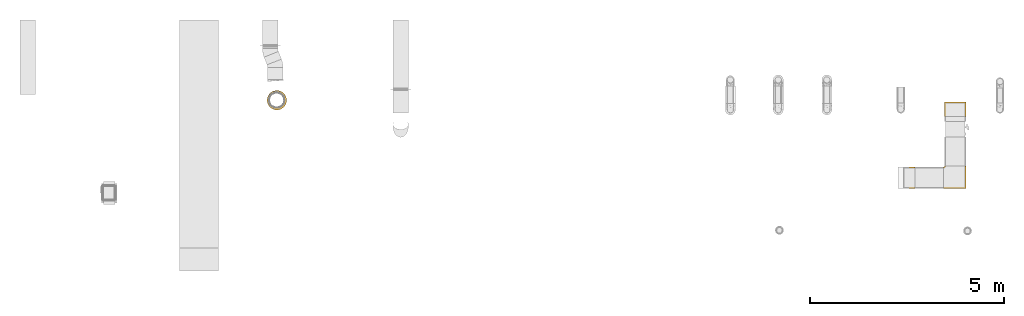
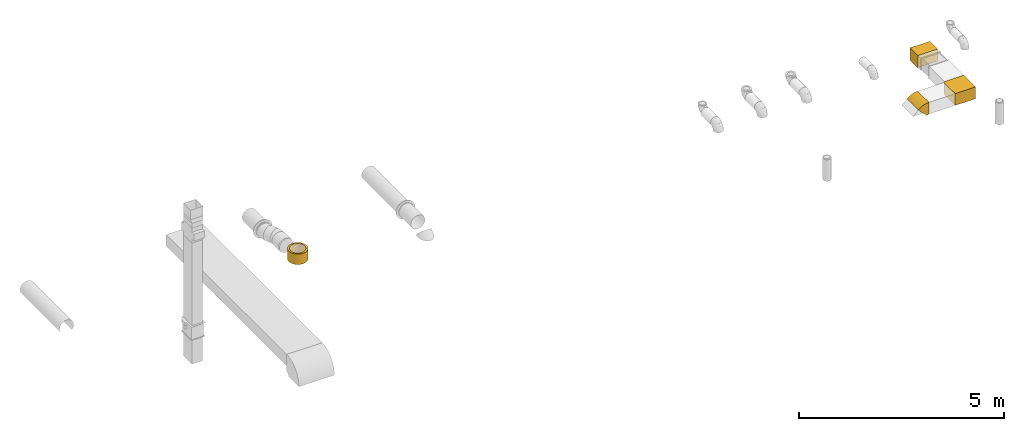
# One storey, part 5 of 14: 4 coverings.
"""IFC2X3 building model written with IfcOpenShell, lengths in millimetres."""

import ifcopenshell
import ifcopenshell.guid

model = None  # the IFC model being written
_history = None  # IfcOwnerHistory: only IFC2X3 demands one
_inside = {}  # id of a spatial element -> (the spatial element, [elements in it])
_under = {}  # id of a project, library or spatial element -> (it, [spatial elements below it])
_declared = {}  # id of a project -> (the project, [libraries it declares])
_typed = {}  # id of a type object -> (the type object, [elements of that type])
_made_of = {}  # id of a material, layer set ... -> (it, [elements and type objects made of it])


def new_model(schema):
    """Start an empty IFC model of exactly this schema.

    Asked for "IFC4X3", IfcOpenShell would pick the latest addendum, in which some entities
    have other attributes; the version numbers below select the first issue.
    IFC2X3 requires an IfcOwnerHistory on every rooted entity: one is made here for all.
    """
    global model, _history
    if schema == "IFC4X3":
        model = ifcopenshell.file(schema_version=(4, 3, 0, 0))
    else:
        model = ifcopenshell.file(schema=schema)
    _inside.clear()
    _under.clear()
    _declared.clear()
    _typed.clear()
    _made_of.clear()
    _history = None
    if model.schema == "IFC2X3":
        org = make("IfcOrganization", Name="unknown")
        user = make(
            "IfcPersonAndOrganization",
            ThePerson=make("IfcPerson", FamilyName="unknown"),
            TheOrganization=org,
        )
        app = make(
            "IfcApplication",
            ApplicationDeveloper=org,
            Version="unknown",
            ApplicationFullName="unknown",
            ApplicationIdentifier="unknown",
        )
        _history = make(
            "IfcOwnerHistory",
            OwningUser=user,
            OwningApplication=app,
            ChangeAction="ADDED",
            CreationDate=0,
        )
    return model


def make(cls, **values):
    """One entity of the class cls with the attributes given. An attribute that is None is left unset."""
    return model.create_entity(
        cls, **{name: value for name, value in values.items() if value is not None}
    )


def entity(cls, *values):
    """Any entity or typed value of the class cls, its attributes in the order of the schema. None: left unset."""
    e = model.create_entity(cls)
    for i, value in enumerate(values):
        if value is not None:
            e[i] = value
    return e


def rooted(cls, **values):
    """An entity with a GlobalId (a new one), such as an element, a storey or a relation."""
    return make(cls, GlobalId=ifcopenshell.guid.new(), OwnerHistory=_history, **values)


def si_unit(unit_type, name, prefix=None):
    """IfcSIUnit, for example si_unit("LENGTHUNIT", "METRE", prefix="MILLI")."""
    return make("IfcSIUnit", UnitType=unit_type, Prefix=prefix, Name=name)


def converted_unit(unit_type, name, factor, base, dimensions=None, offset=None):
    """IfcConversionBasedUnit, such as the inch: factor (a typed value) times the base unit."""
    return make(
        "IfcConversionBasedUnit"
        if offset is None
        else "IfcConversionBasedUnitWithOffset",
        ConversionOffset=offset,
        Dimensions=None
        if dimensions is None
        else entity("IfcDimensionalExponents", *dimensions),
        UnitType=unit_type,
        Name=name,
        ConversionFactor=make(
            "IfcMeasureWithUnit", ValueComponent=factor, UnitComponent=base
        ),
    )


def derived_unit(unit_type, elements):
    """IfcDerivedUnit: a product of units, each with its exponent."""
    return make(
        "IfcDerivedUnit",
        Elements=[
            make("IfcDerivedUnitElement", Unit=unit, Exponent=power)
            for unit, power in elements
        ],
        UnitType=unit_type,
    )


def assignment(units):
    """IfcUnitAssignment: the units of a project."""
    return None if units is None else make("IfcUnitAssignment", Units=units)


def point(xyz):
    """IfcCartesianPoint."""
    return None if xyz is None else make("IfcCartesianPoint", Coordinates=xyz)


def direction(xyz):
    """IfcDirection."""
    return None if xyz is None else make("IfcDirection", DirectionRatios=xyz)


def frame(location, z_axis=None, x_axis=None):
    """IfcAxis2Placement3D, a coordinate frame: its origin and axes. An axis left out is left unset."""
    return make(
        "IfcAxis2Placement3D",
        Location=point(location),
        Axis=direction(z_axis),
        RefDirection=direction(x_axis),
    )


def origin_with_axes():
    """The frame at (0, 0, 0) with the z axis (0, 0, 1) and the x axis (1, 0, 0) written out."""
    return frame((0.0, 0.0, 0.0), z_axis=(0.0, 0.0, 1.0), x_axis=(1.0, 0.0, 0.0))


def place(relative_to, where):
    """IfcLocalPlacement: puts the frame where relative to a parent placement (None: the world)."""
    return make(
        "IfcLocalPlacement", PlacementRelTo=relative_to, RelativePlacement=where
    )


def context(
    kind, dimensions, precision=None, world=None, true_north=None, identifier=None
):
    """IfcGeometricRepresentationContext, for example the 3D "Model" context."""
    return make(
        "IfcGeometricRepresentationContext",
        ContextIdentifier=identifier,
        ContextType=kind,
        CoordinateSpaceDimension=dimensions,
        Precision=precision,
        WorldCoordinateSystem=world,
        TrueNorth=true_north,
    )


def subcontext(parent, identifier, kind, view, scale=None):
    """IfcGeometricRepresentationSubContext, for example "Body" below "Model"."""
    return make(
        "IfcGeometricRepresentationSubContext",
        ContextIdentifier=identifier,
        ContextType=kind,
        ParentContext=parent,
        TargetScale=scale,
        TargetView=view,
    )


def project(units=None, contexts=None):
    """IfcProject with its units and contexts."""
    return rooted(
        "IfcProject",
        Name="project",
        RepresentationContexts=contexts,
        UnitsInContext=assignment(units),
    )


def spatial(cls, under=None, at=None, **own):
    """A site, building, storey or space (cls), placed at a placement, below another one or the project."""
    s = rooted(cls, ObjectPlacement=at, **own)
    if under is not None:
        _under.setdefault(under.id(), (under, []))[1].append(s)
    return s


def faces_of(points, faces, orient=None, outer=None):
    """IfcFace entities. A face is a list of loops; a loop is a list of indices into points, from 0.

    orient and outer hold one flag for each loop. By default every Orientation is true, the
    first loop of a face is its IfcFaceOuterBound and the others are IfcFaceBound.
    """
    made = []
    for i, loops in enumerate(faces):
        bounds = []
        for j, loop in enumerate(loops):
            is_outer = j == 0 if outer is None else outer[i][j]
            bounds.append(
                make(
                    "IfcFaceOuterBound" if is_outer else "IfcFaceBound",
                    Bound=make("IfcPolyLoop", Polygon=[points[k] for k in loop]),
                    Orientation=True if orient is None else orient[i][j],
                )
            )
        made.append(make("IfcFace", Bounds=bounds))
    return made


def open_shell(faces, orient=None, outer=None):
    """The faces of one IfcOpenShell. surface_model builds it on its shared points."""
    return ("IfcOpenShell", faces, orient, outer)


def faceted_brep(points, faces, orient=None, outer=None, voids=None):
    """IfcFacetedBrep: a solid bounded by flat faces; with voids (closed shells), ...WithVoids."""
    shared = [point(p) for p in points]
    hull = make("IfcClosedShell", CfsFaces=faces_of(shared, faces, orient, outer))
    if voids is None:
        return make("IfcFacetedBrep", Outer=hull)
    return make(
        "IfcFacetedBrepWithVoids",
        Outer=hull,
        Voids=[
            make(cls, CfsFaces=faces_of(shared, fs, o, b)) for cls, fs, o, b in voids
        ],
    )


def surface_model(cls, points, shells):
    """IfcFaceBasedSurfaceModel or IfcShellBasedSurfaceModel (cls): surfaces that need not close."""
    shared = [point(p) for p in points]
    made = [make(c, CfsFaces=faces_of(shared, fs, o, b)) for c, fs, o, b in shells]
    if cls == "IfcFaceBasedSurfaceModel":
        return make(cls, FbsmFaces=made)
    return make(cls, SbsmBoundary=made)


def shape(context_of_items, identifier, shape_type, items):
    """IfcShapeRepresentation: the items that make up one representation, for example the "Body"."""
    return make(
        "IfcShapeRepresentation",
        ContextOfItems=context_of_items,
        RepresentationIdentifier=identifier,
        RepresentationType=shape_type,
        Items=items,
    )


def source(mapping_origin, context_of_items, identifier, shape_type, items):
    """IfcRepresentationMap: a shape defined once, which mapped items show again and again."""
    return make(
        "IfcRepresentationMap",
        MappingOrigin=mapping_origin,
        MappedRepresentation=shape(context_of_items, identifier, shape_type, items),
    )


def transform(
    local_origin,
    x_axis=None,
    y_axis=None,
    z_axis=None,
    scale=None,
    scale2=None,
    scale3=None,
    uniform=True,
):
    """IfcCartesianTransformationOperator3D, or its non-uniform kind. x_axis, y_axis, z_axis: its Axis1, 2, 3."""
    if uniform:
        return make(
            "IfcCartesianTransformationOperator3D",
            Axis1=direction(x_axis),
            Axis2=direction(y_axis),
            LocalOrigin=point(local_origin),
            Scale=scale,
            Axis3=direction(z_axis),
        )
    return make(
        "IfcCartesianTransformationOperator3DnonUniform",
        Axis1=direction(x_axis),
        Axis2=direction(y_axis),
        LocalOrigin=point(local_origin),
        Scale=scale,
        Axis3=direction(z_axis),
        Scale2=scale2,
        Scale3=scale3,
    )


def mapped(mapping_source, mapping_target):
    """IfcMappedItem: shows the shape of a source again, moved by a transform."""
    return make(
        "IfcMappedItem", MappingSource=mapping_source, MappingTarget=mapping_target
    )


def made_of(thing, what):
    """Note that an element or type object is made of a material, layer set ...; save() writes the relation."""
    if what is not None:
        _made_of.setdefault(what.id(), (what, []))[1].append(thing)
    return thing


def element(
    cls,
    number,
    at=None,
    inside=None,
    cuts=None,
    type_object=None,
    material=None,
    context=None,
    identifier="Body",
    shape_type=None,
    held_by="IfcProductDefinitionShape",
    body=None,
    shapes=None,
    **own,
):
    """One element of the class cls, such as IfcWall. Its Tag is "e" and its number.

    at: its placement. inside: the storey or other place that contains it. cuts: it is an
    opening in that element (IfcRelVoidsElement). A single representation is given by context,
    identifier, shape_type and body (its items); several are given by shapes. held_by: the class
    of the entity that holds the representations. save() writes the other relations.
    """
    e = rooted(cls, Tag="e%d" % number, ObjectPlacement=at, **own)
    if body is not None:
        shapes = [shape(context, identifier, shape_type, body)]
    if shapes is not None:
        e.Representation = make(held_by, Representations=shapes)
    if inside is not None:
        _inside.setdefault(inside.id(), (inside, []))[1].append(e)
    if cuts is not None:
        rooted(
            "IfcRelVoidsElement", RelatingBuildingElement=cuts, RelatedOpeningElement=e
        )
    if type_object is not None:
        _typed.setdefault(type_object.id(), (type_object, []))[1].append(e)
    return made_of(e, material)


def aggregate(whole, parts):
    """IfcRelAggregates: a whole, such as a stair, and the parts it consists of."""
    return rooted("IfcRelAggregates", RelatingObject=whole, RelatedObjects=parts)


def save(model, path):
    """Write the relations noted so far, then the file.

    IfcRelAggregates (storeys below a building ...), IfcRelContainedInSpatialStructure (elements
    in a storey), IfcRelDefinesByType, IfcRelAssociatesMaterial and IfcRelDeclares: one each for
    every whole, place, type object, material and project.
    """
    for whole, parts in _under.values():
        aggregate(whole, parts)
    for where, things in _inside.values():
        rooted(
            "IfcRelContainedInSpatialStructure",
            RelatedElements=things,
            RelatingStructure=where,
        )
    for kind, things in _typed.values():
        rooted("IfcRelDefinesByType", RelatedObjects=things, RelatingType=kind)
    for what, things in _made_of.values():
        rooted("IfcRelAssociatesMaterial", RelatedObjects=things, RelatingMaterial=what)
    for by, libraries in _declared.values():
        rooted("IfcRelDeclares", RelatingContext=by, RelatedDefinitions=libraries)
    model.write(path)


model = new_model("IFC2X3")

# Units and contexts
model_context = context("Model", 3, precision=0.01, world=frame((0.0, 4.29681676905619e-09, 0.0)), true_north=direction((4.01073788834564e-13, 1.0)))
plan_context = context("Plan", 3, precision=0.01, world=frame((0.0, 4.29681676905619e-09, 0.0)), true_north=direction((4.01073788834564e-13, 1.0)))
body_context = subcontext(model_context, "Body", "Model", "MODEL_VIEW")
ifc_project = project(units=[converted_unit("PLANEANGLEUNIT", "DEGREE", entity("IfcPositiveLengthMeasure", 0.0174532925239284), si_unit("PLANEANGLEUNIT", "RADIAN"), dimensions=[0, 0, 0, 0, 0, 0, 0]), si_unit("AREAUNIT", "SQUARE_METRE"), si_unit("LENGTHUNIT", "METRE", prefix="MILLI"), si_unit("MASSUNIT", "GRAM", prefix="KILO"), si_unit("POWERUNIT", "WATT"), si_unit("PRESSUREUNIT", "PASCAL", prefix="KILO"), si_unit("FORCEUNIT", "NEWTON", prefix="KILO"), si_unit("ELECTRICVOLTAGEUNIT", "VOLT"), si_unit("ELECTRICCURRENTUNIT", "AMPERE"), si_unit("THERMODYNAMICTEMPERATUREUNIT", "DEGREE_CELSIUS"), si_unit("TIMEUNIT", "SECOND"), si_unit("VOLUMEUNIT", "CUBIC_METRE"), derived_unit("LINEARVELOCITYUNIT", [(si_unit("LENGTHUNIT", "METRE"), 1), (si_unit("TIMEUNIT", "SECOND"), -1)]), derived_unit("VOLUMETRICFLOWRATEUNIT", [(si_unit("VOLUMEUNIT", "CUBIC_METRE"), 1), (si_unit("TIMEUNIT", "SECOND"), -1)]), derived_unit("THERMALTRANSMITTANCEUNIT", [(si_unit("POWERUNIT", "WATT"), 1), (si_unit("THERMODYNAMICTEMPERATUREUNIT", "KELVIN"), -1), (si_unit("AREAUNIT", "SQUARE_METRE"), -1)]), derived_unit("SOUNDPRESSUREUNIT", [(si_unit("PRESSUREUNIT", "PASCAL"), 1)])], contexts=[model_context, plan_context])

# Site, building, storey
site_placement = place(None, frame((0.0, -4.29681676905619e-09, 0.0), z_axis=(0.0, 0.0, 1.0), x_axis=(1.0, 0.0, 0.0)))
site = spatial("IfcSite", under=ifc_project, at=site_placement, CompositionType="ELEMENT")
building_placement = place(site_placement, frame((0.0, 4.29681676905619e-09, 0.0), z_axis=(0.0, 0.0, 1.0), x_axis=(1.0, 0.0, 0.0)))
building = spatial("IfcBuilding", under=site, at=building_placement, Name="mc-building", CompositionType="ELEMENT")
storey_placement = place(building_placement, frame((0.0, 0.0, 205200.0), z_axis=(0.0, 0.0, 1.0), x_axis=(1.0, 0.0, 0.0)))
storey = spatial("IfcBuildingStorey", under=building, at=storey_placement, Name="Nivå D + 1,2 m", CompositionType="ELEMENT", Elevation=205200.0)

# Coverings
shared_shape_1 = source(origin_with_axes(), body_context, "Body", "SurfaceModel", [
    surface_model("IfcShellBasedSurfaceModel", [(275.0, 301.5, 175.0), (-275.04504, 301.5, 175.0), (-275.41073, 295.48696, 175.0), (275.0, -275.0, 175.0), (-280.32124, 284.58096, 175.0), (-277.20417, 289.73597, 175.0), (-284.58096, 280.32124, 175.0), (-289.73597, 277.20417, 175.0), (-301.5, -275.0, 175.0), (-295.48696, 275.41073, 175.0), (-301.5, 275.04504, 175.0), (-289.73597, 277.20417, -175.0), (-284.58096, 280.32124, -175.0), (-301.5, -275.0, -175.0), (-301.5, 275.04504, -175.0), (-295.48696, 275.41073, -175.0), (275.0, -275.0, -175.0), (-275.41073, 295.48696, -175.0), (-275.04504, 301.5, -175.0), (275.0, 301.5, -175.0), (-277.20417, 289.73597, -175.0), (-280.32124, 284.58096, -175.0)], [open_shell([[[0, 1, 2]], [[3, 0, 4]], [[5, 0, 2]], [[4, 0, 5]], [[6, 7, 8]], [[6, 8, 3]], [[9, 10, 8]], [[9, 8, 7]], [[6, 3, 4]], [[11, 12, 13]], [[13, 14, 15]], [[13, 15, 11]], [[12, 16, 13]], [[17, 18, 19]], [[17, 19, 20]], [[20, 19, 21]], [[21, 19, 16]], [[21, 16, 12]], [[1, 0, 19]], [[19, 18, 1]], [[2, 1, 17]], [[5, 2, 20]], [[4, 5, 21]], [[17, 1, 18]], [[20, 2, 17]], [[20, 21, 5]], [[21, 12, 4]], [[7, 6, 11]], [[9, 7, 15]], [[10, 9, 14]], [[11, 6, 12]], [[15, 7, 11]], [[15, 14, 9]], [[4, 12, 6]], [[8, 10, 14]], [[14, 13, 8]], [[3, 8, 16]], [[13, 16, 8]], [[0, 3, 19]], [[16, 19, 3]]])]),
])
covering_1_placement = place(storey_placement, frame((347143.0, 463433.0, 4092.5), z_axis=(0.0, 0.0, 1.0), x_axis=(1.0, 0.0, 0.0)))
element("IfcCovering", 1, at=covering_1_placement, inside=storey, Name="T=25mm", PredefinedType="INSULATION", context=body_context, shape_type="MappedRepresentation", body=[
    mapped(shared_shape_1, transform((0.0, 0.0, 0.0), scale=1.0)),
])
shared_shape_2 = source(origin_with_axes(), body_context, "Body", "SurfaceModel", [
    surface_model("IfcShellBasedSurfaceModel", [(-66.05339, 185.0481, 275.0), (89.39257, -128.67777, 275.0), (146.25534, -93.83223, 275.0), (27.77883, -154.19902, 275.0), (-84.14197, 177.55557, 275.0), (-37.06874, -169.76754, 275.0), (196.96699, -50.52038, 275.0), (-50.52038, 196.96699, 275.0), (-103.55339, 175.0, 275.0), (-103.55339, -175.0, 275.0), (89.39257, -128.67777, -275.0), (-84.14197, 177.55557, -275.0), (-66.05339, 185.0481, -275.0), (-37.06874, -169.76754, -275.0), (-103.55339, -175.0, -275.0), (-103.55339, 175.0, -275.0), (-50.52038, 196.96699, -275.0), (146.25534, -93.83223, -275.0), (27.77883, -154.19902, -275.0), (196.96699, -50.52038, -275.0)], [open_shell([[[0, 1, 2]], [[3, 4, 5]], [[1, 4, 3]], [[2, 6, 7]], [[4, 1, 0]], [[8, 9, 5]], [[5, 4, 8]], [[0, 2, 7]], [[10, 11, 12]], [[13, 14, 15]], [[11, 13, 15]], [[12, 16, 17]], [[10, 12, 17]], [[11, 18, 13]], [[11, 10, 18]], [[17, 16, 19]], [[12, 0, 7]], [[7, 16, 12]], [[12, 11, 0]], [[15, 8, 4]], [[4, 11, 15]], [[0, 11, 4]], [[9, 8, 15]], [[15, 14, 9]], [[5, 14, 13]], [[3, 13, 18]], [[14, 5, 9]], [[5, 13, 3]], [[18, 1, 3]], [[2, 10, 17]], [[6, 17, 19]], [[10, 2, 1]], [[2, 17, 6]], [[10, 1, 18]], [[7, 6, 19]], [[19, 16, 7]]])]),
])
covering_2_placement = place(storey_placement, frame((345997.62386, 463433.0, 4092.5), z_axis=(0.0, 1.0, 0.0), x_axis=(0.707106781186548, 0.0, 0.707106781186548)))
element("IfcCovering", 2, at=covering_2_placement, inside=storey, Name="T=25mm", PredefinedType="INSULATION", context=body_context, shape_type="MappedRepresentation", body=[
    mapped(shared_shape_2, transform((0.0, 0.0, 0.0), scale=1.0)),
])
shared_shape_3 = source(origin_with_axes(), body_context, "Body", "SurfaceModel", [
    surface_model("IfcShellBasedSurfaceModel", [(180.0, 201.5, 280.0), (-180.05632, 201.5, 280.0), (-180.29094, 196.60103, 280.0), (180.0, -180.0, 280.0), (-184.23054, 187.69861, 280.0), (-181.7108, 191.90645, 280.0), (-187.69861, 184.23054, 280.0), (-191.90645, 181.7108, 280.0), (-201.5, -180.0, 280.0), (-196.60103, 180.29094, 280.0), (-201.5, 180.05632, 280.0), (-191.90645, 181.7108, -280.0), (-187.69861, 184.23054, -280.0), (-201.5, -180.0, -280.0), (-201.5, 180.05632, -280.0), (-196.60103, 180.29094, -280.0), (180.0, -180.0, -280.0), (-180.29094, 196.60103, -280.0), (-180.05632, 201.5, -280.0), (180.0, 201.5, -280.0), (-181.7108, 191.90645, -280.0), (-184.23054, 187.69861, -280.0)], [open_shell([[[0, 1, 2]], [[3, 0, 4]], [[5, 0, 2]], [[4, 0, 5]], [[6, 7, 8]], [[6, 8, 3]], [[9, 10, 8]], [[9, 8, 7]], [[6, 3, 4]], [[11, 12, 13]], [[13, 14, 15]], [[13, 15, 11]], [[12, 16, 13]], [[17, 18, 19]], [[17, 19, 20]], [[20, 19, 21]], [[21, 19, 16]], [[21, 16, 12]], [[1, 0, 19]], [[19, 18, 1]], [[2, 1, 17]], [[5, 2, 20]], [[4, 5, 21]], [[17, 1, 18]], [[20, 2, 17]], [[20, 21, 5]], [[21, 12, 4]], [[7, 6, 11]], [[9, 7, 15]], [[10, 9, 14]], [[11, 6, 12]], [[15, 7, 11]], [[15, 14, 9]], [[4, 12, 6]], [[8, 10, 14]], [[14, 13, 8]], [[3, 8, 13]], [[13, 16, 3]], [[0, 3, 19]], [[16, 19, 3]]])]),
])
covering_3_placement = place(storey_placement, frame((347143.0, 465211.0, 4092.5), z_axis=(-1.0, 0.0, 0.0), x_axis=(0.0, 1.0, 0.0)))
element("IfcCovering", 3, at=covering_3_placement, inside=storey, Name="B-EI60", PredefinedType="INSULATION", context=body_context, shape_type="MappedRepresentation", body=[
    mapped(shared_shape_3, transform((0.0, 0.0, 0.0), scale=1.0)),
])
covering_4_placement = place(storey_placement, frame((329638.925, 465430.5, 3365.0), z_axis=(0.0, -1.0, 0.0), x_axis=(0.0, 0.0, 1.0)))
element("IfcCovering", 4, at=covering_4_placement, inside=storey, Name="B-EI60", PredefinedType="INSULATION", context=body_context, shape_type="Brep", body=[
    faceted_brep([(635.0, 196.961550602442, -34.7296355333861), (635.0, 200.0, 0.0), (942.6, 200.0, 0.0), (942.6, 196.961550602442, -34.7296355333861), (635.0, 187.938524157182, -68.4040286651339), (942.6, 187.938524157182, -68.4040286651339), (635.0, 173.205080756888, -100.0), (942.6, 173.205080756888, -100.0), (635.0, 153.208888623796, -128.557521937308), (942.6, 153.208888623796, -128.557521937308), (635.0, 128.557521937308, -153.208888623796), (942.6, 128.557521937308, -153.208888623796), (635.0, 100.0, -173.205080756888), (942.6, 100.0, -173.205080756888), (635.0, 68.4040286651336, -187.938524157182), (942.6, 68.4040286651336, -187.938524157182), (635.0, 34.729635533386, -196.961550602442), (942.6, 34.729635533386, -196.961550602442), (635.0, -3.67394039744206e-14, -200.0), (942.6, -3.67394039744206e-14, -200.0), (635.0, -34.7296355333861, -196.961550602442), (942.6, -34.7296355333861, -196.961550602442), (635.0, -68.4040286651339, -187.938524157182), (942.6, -68.4040286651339, -187.938524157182), (635.0, -100.0, -173.205080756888), (942.6, -100.0, -173.205080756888), (635.0, -128.557521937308, -153.208888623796), (942.6, -128.557521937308, -153.208888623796), (635.0, -153.208888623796, -128.557521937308), (942.6, -153.208888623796, -128.557521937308), (635.0, -173.205080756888, -99.9999999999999), (942.6, -173.205080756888, -99.9999999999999), (635.0, -187.938524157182, -68.4040286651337), (942.6, -187.938524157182, -68.4040286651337), (635.0, -196.961550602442, -34.729635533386), (942.6, -196.961550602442, -34.729635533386), (635.0, -200.0, 2.44929359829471e-14), (942.6, -200.0, 2.44929359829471e-14), (635.0, -196.961550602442, 34.7296355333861), (942.6, -196.961550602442, 34.7296355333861), (635.0, -187.938524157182, 68.4040286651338), (942.6, -187.938524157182, 68.4040286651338), (635.0, -173.205080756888, 100.0), (942.6, -173.205080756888, 100.0), (635.0, -153.208888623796, 128.557521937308), (942.6, -153.208888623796, 128.557521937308), (635.0, -128.557521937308, 153.208888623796), (942.6, -128.557521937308, 153.208888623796), (635.0, -99.9999999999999, 173.205080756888), (942.6, -100.0, 173.205080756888), (635.0, -68.4040286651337, 187.938524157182), (942.6, -68.4040286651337, 187.938524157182), (635.0, -34.7296355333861, 196.961550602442), (942.6, -34.7296355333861, 196.961550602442), (635.0, 1.22464679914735e-14, 200.0), (942.6, 1.22464679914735e-14, 200.0), (635.0, 34.7296355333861, 196.961550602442), (942.6, 34.7296355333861, 196.961550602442), (635.0, 68.4040286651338, 187.938524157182), (942.6, 68.4040286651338, 187.938524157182), (635.0, 100.0, 173.205080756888), (942.6, 100.0, 173.205080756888), (635.0, 128.557521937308, 153.208888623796), (942.6, 128.557521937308, 153.208888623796), (635.0, 153.208888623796, 128.557521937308), (942.6, 153.208888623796, 128.557521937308), (635.0, 173.205080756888, 100.0), (942.6, 173.205080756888, 100.0), (635.0, 187.938524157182, 68.4040286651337), (942.6, 187.938524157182, 68.4040286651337), (635.0, 196.961550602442, 34.7296355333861), (942.6, 196.961550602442, 34.7296355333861), (635.0, 250.0, 0.0), (635.0, 246.201938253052, -43.4120444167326), (942.6, 246.201938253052, -43.4120444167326), (942.6, 250.0, 0.0), (635.0, 246.201938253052, 43.4120444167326), (942.6, 246.201938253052, 43.4120444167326), (635.0, 234.923155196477, 85.5050358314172), (942.6, 234.923155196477, 85.5050358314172), (635.0, 216.50635094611, 125.0), (942.6, 216.50635094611, 125.0), (635.0, 191.511110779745, 160.696902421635), (942.6, 191.511110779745, 160.696902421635), (635.0, 160.696902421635, 191.511110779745), (942.6, 160.696902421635, 191.511110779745), (635.0, 125.0, 216.50635094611), (942.6, 125.0, 216.50635094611), (635.0, 85.5050358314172, 234.923155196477), (942.6, 85.5050358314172, 234.923155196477), (635.0, 43.4120444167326, 246.201938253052), (942.6, 43.4120444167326, 246.201938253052), (635.0, 1.53080849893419e-14, 250.0), (942.6, 1.53080849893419e-14, 250.0), (635.0, -43.4120444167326, 246.201938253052), (942.6, -43.4120444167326, 246.201938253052), (635.0, -85.5050358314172, 234.923155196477), (942.6, -85.5050358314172, 234.923155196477), (635.0, -125.0, 216.50635094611), (942.6, -125.0, 216.50635094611), (635.0, -160.696902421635, 191.511110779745), (942.6, -160.696902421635, 191.511110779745), (635.0, -191.511110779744, 160.696902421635), (942.6, -191.511110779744, 160.696902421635), (635.0, -216.50635094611, 125.0), (942.6, -216.50635094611, 125.0), (635.0, -234.923155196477, 85.5050358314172), (942.6, -234.923155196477, 85.5050358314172), (635.0, -246.201938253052, 43.4120444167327), (942.6, -246.201938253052, 43.4120444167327), (635.0, -250.0, 3.06161699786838e-14), (942.6, -250.0, 3.06161699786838e-14), (635.0, -246.201938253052, -43.4120444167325), (942.6, -246.201938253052, -43.4120444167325), (635.0, -234.923155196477, -85.5050358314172), (942.6, -234.923155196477, -85.5050358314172), (635.0, -216.50635094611, -125.0), (942.6, -216.50635094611, -125.0), (635.0, -191.511110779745, -160.696902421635), (942.6, -191.511110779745, -160.696902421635), (635.0, -160.696902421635, -191.511110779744), (942.6, -160.696902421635, -191.511110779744), (635.0, -125.0, -216.50635094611), (942.6, -125.0, -216.50635094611), (635.0, -85.5050358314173, -234.923155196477), (942.6, -85.5050358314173, -234.923155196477), (635.0, -43.4120444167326, -246.201938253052), (942.6, -43.4120444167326, -246.201938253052), (635.0, -4.59242549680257e-14, -250.0), (942.6, -4.59242549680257e-14, -250.0), (635.0, 43.4120444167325, -246.201938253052), (942.6, 43.4120444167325, -246.201938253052), (635.0, 85.505035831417, -234.923155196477), (942.6, 85.505035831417, -234.923155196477), (635.0, 125.0, -216.50635094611), (942.6, 125.0, -216.50635094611), (635.0, 160.696902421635, -191.511110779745), (942.6, 160.696902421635, -191.511110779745), (635.0, 191.511110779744, -160.696902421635), (942.6, 191.511110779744, -160.696902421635), (635.0, 216.50635094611, -125.0), (942.6, 216.50635094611, -125.0), (635.0, 234.923155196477, -85.5050358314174), (942.6, 234.923155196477, -85.5050358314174)], [[[0, 1, 2, 3]], [[4, 0, 3, 5]], [[6, 4, 5, 7]], [[8, 6, 7, 9]], [[10, 8, 9, 11]], [[12, 10, 11, 13]], [[14, 12, 13, 15]], [[16, 14, 15, 17]], [[18, 16, 17, 19]], [[20, 18, 19, 21]], [[22, 20, 21, 23]], [[24, 22, 23, 25]], [[26, 24, 25, 27]], [[28, 26, 27, 29]], [[30, 28, 29, 31]], [[32, 30, 31, 33]], [[34, 32, 33, 35]], [[36, 34, 35, 37]], [[38, 36, 37, 39]], [[40, 38, 39, 41]], [[42, 40, 41, 43]], [[44, 42, 43, 45]], [[46, 44, 45, 47]], [[48, 46, 47, 49]], [[50, 48, 49, 51]], [[52, 50, 51, 53]], [[54, 52, 53, 55]], [[56, 54, 55, 57]], [[58, 56, 57, 59]], [[60, 58, 59, 61]], [[62, 60, 61, 63]], [[64, 62, 63, 65]], [[66, 64, 65, 67]], [[68, 66, 67, 69]], [[70, 68, 69, 71]], [[1, 70, 71, 2]], [[72, 73, 74, 75]], [[76, 72, 75, 77]], [[78, 76, 77, 79]], [[80, 78, 79, 81]], [[82, 80, 81, 83]], [[84, 82, 83, 85]], [[86, 84, 85, 87]], [[88, 86, 87, 89]], [[90, 88, 89, 91]], [[92, 90, 91, 93]], [[94, 92, 93, 95]], [[96, 94, 95, 97]], [[98, 96, 97, 99]], [[100, 98, 99, 101]], [[102, 100, 101, 103]], [[104, 102, 103, 105]], [[106, 104, 105, 107]], [[108, 106, 107, 109]], [[110, 108, 109, 111]], [[112, 110, 111, 113]], [[114, 112, 113, 115]], [[116, 114, 115, 117]], [[118, 116, 117, 119]], [[120, 118, 119, 121]], [[122, 120, 121, 123]], [[124, 122, 123, 125]], [[126, 124, 125, 127]], [[128, 126, 127, 129]], [[130, 128, 129, 131]], [[132, 130, 131, 133]], [[134, 132, 133, 135]], [[136, 134, 135, 137]], [[138, 136, 137, 139]], [[140, 138, 139, 141]], [[142, 140, 141, 143]], [[73, 142, 143, 74]], [[75, 74, 143, 141, 139, 137, 135, 133, 131, 129, 127, 125, 123, 121, 119, 117, 115, 113, 111, 109, 107, 105, 103, 101, 99, 97, 95, 93, 91, 89, 87, 85, 83, 81, 79, 77], [2, 71, 69, 67, 65, 63, 61, 59, 57, 55, 53, 51, 49, 47, 45, 43, 41, 39, 37, 35, 33, 31, 29, 27, 25, 23, 21, 19, 17, 15, 13, 11, 9, 7, 5, 3]], [[76, 78, 80, 82, 84, 86, 88, 90, 92, 94, 96, 98, 100, 102, 104, 106, 108, 110, 112, 114, 116, 118, 120, 122, 124, 126, 128, 130, 132, 134, 136, 138, 140, 142, 73, 72], [4, 6, 8, 10, 12, 14, 16, 18, 20, 22, 24, 26, 28, 30, 32, 34, 36, 38, 40, 42, 44, 46, 48, 50, 52, 54, 56, 58, 60, 62, 64, 66, 68, 70, 1, 0]]], orient=[[False], [False], [False], [False], [False], [False], [False], [False], [False], [False], [False], [False], [False], [False], [False], [False], [False], [False], [False], [False], [False], [False], [False], [False], [False], [False], [False], [False], [False], [False], [False], [False], [False], [False], [False], [False], [False], [False], [False], [False], [False], [False], [False], [False], [False], [False], [False], [False], [False], [False], [False], [False], [False], [False], [False], [False], [False], [False], [False], [False], [False], [False], [False], [False], [False], [False], [False], [False], [False], [False], [False], [False], [False, False], [False, False]]),
])

save(model, "model.ifc")
